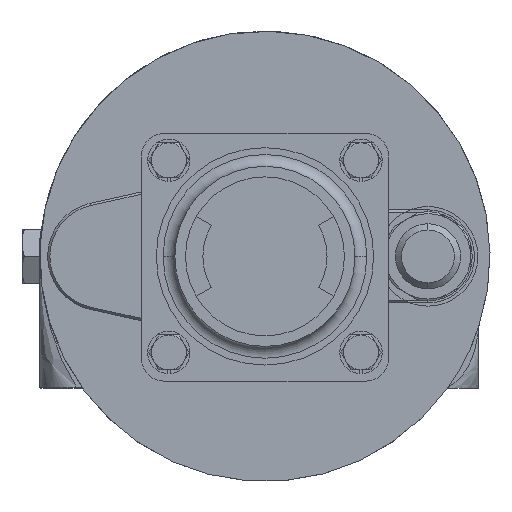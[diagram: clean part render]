
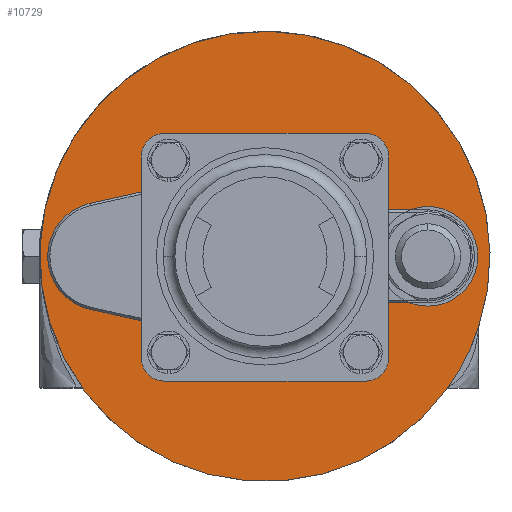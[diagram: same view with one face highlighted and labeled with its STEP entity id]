
A CAD part, front view. The second image highlights one B-rep face of the part: STEP entity #10729.
In plain terms, the highlighted planar face has unit normal (0, -1, 0).
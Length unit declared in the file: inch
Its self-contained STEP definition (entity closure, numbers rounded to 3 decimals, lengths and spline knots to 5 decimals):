
#8942=CARTESIAN_POINT('',(0.00015,18.41,0.00015));
#8943=DIRECTION('',(0.,1.,0.));
#8944=DIRECTION('',(0.81,0.,-0.586));
#8945=AXIS2_PLACEMENT_3D('',#8942,#8943,#8944);
#8947=CARTESIAN_POINT('',(0.00015,18.41,0.00015));
#8948=DIRECTION('',(0.,-1.,0.));
#8949=DIRECTION('',(0.81,0.,-0.586));
#8950=AXIS2_PLACEMENT_3D('',#8947,#8948,#8949);
#9144=CARTESIAN_POINT('',(2.93698,18.41,-2.12485));
#9145=CARTESIAN_POINT('',(3.43715,18.41,-1.15209));
#9146=VERTEX_POINT('',#9144);
#9147=VERTEX_POINT('',#9145);
#10720=CARTESIAN_POINT('',(0.00015,18.41,-2.12485));
#10721=DIRECTION('',(0.,1.,0.));
#10722=DIRECTION('',(-1.,0.,0.));
#10723=AXIS2_PLACEMENT_3D('',#10720,#10721,#10722);
#10724=PLANE('',#10723);
#10725=ORIENTED_EDGE('',*,*,#9161,.T.);
#10726=ORIENTED_EDGE('',*,*,#9565,.F.);
#10727=EDGE_LOOP('',(#10725,#10726));
#10728=FACE_OUTER_BOUND('',#10727,.F.);
#10729=ADVANCED_FACE('',(#10728),#10724,.F.);
#8946=CIRCLE('',#8945,3.625);
#8951=CIRCLE('',#8950,3.625);
#9161=EDGE_CURVE('',#9146,#9147,#8946,.T.);
#9565=EDGE_CURVE('',#9146,#9147,#8951,.T.);
